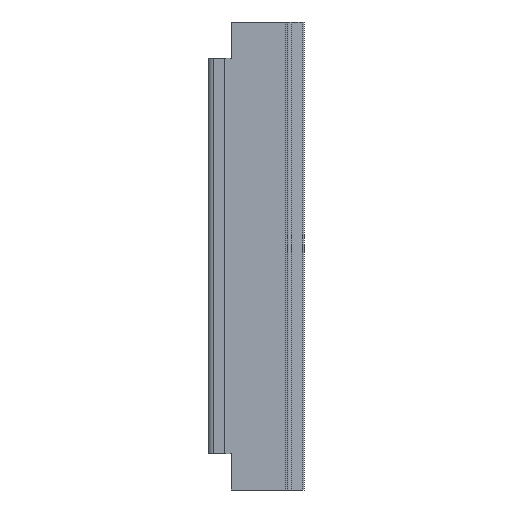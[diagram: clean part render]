
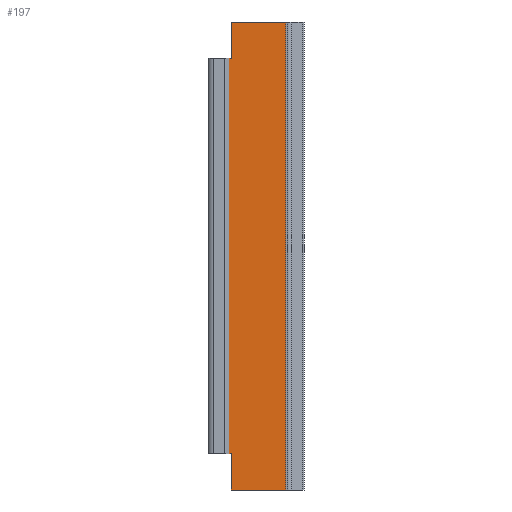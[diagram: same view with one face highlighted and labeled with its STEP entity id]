
A CAD part, left-side view. The second image highlights one B-rep face of the part: STEP entity #197.
In plain terms, the highlighted planar face has unit normal (-1, 0, 0).
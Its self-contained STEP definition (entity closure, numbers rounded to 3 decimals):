
#20 = VECTOR ( 'NONE', #1108, 1000. ) ;
#21 = LINE ( 'NONE', #1107, #20 ) ;
#33 = VECTOR ( 'NONE', #1095, 1000. ) ;
#46 = LINE ( 'NONE', #1092, #33 ) ;
#77 = LINE ( 'NONE', #1258, #190 ) ;
#93 = VECTOR ( 'NONE', #1237, 1000. ) ;
#94 = LINE ( 'NONE', #1236, #93 ) ;
#117 = LINE ( 'NONE', #1201, #125 ) ;
#121 = VECTOR ( 'NONE', #1203, 1000. ) ;
#122 = LINE ( 'NONE', #1202, #121 ) ;
#125 = VECTOR ( 'NONE', #1210, 1000. ) ;
#135 = VECTOR ( 'NONE', #1183, 1000. ) ;
#155 = LINE ( 'NONE', #1178, #135 ) ;
#173 = VECTOR ( 'NONE', #1141, 1000. ) ;
#174 = LINE ( 'NONE', #1140, #173 ) ;
#190 = VECTOR ( 'NONE', #1259, 1000. ) ;
#197 = ADVANCED_FACE ( 'NONE', ( #289 ), #750, .F. ) ;
#289 = FACE_OUTER_BOUND ( 'NONE', #323, .T. ) ;
#323 = EDGE_LOOP ( 'NONE', ( #577, #578, #579, #606, #612, #611, #595, #597 ) ) ;
#419 = CARTESIAN_POINT ( 'NONE',  ( -2.8, -17.7, 431.5 ) ) ;
#431 = CARTESIAN_POINT ( 'NONE',  ( -2.8, -17.7, 36.5 ) ) ;
#435 = CARTESIAN_POINT ( 'NONE',  ( -2.8, -14.928, 431.5 ) ) ;
#436 = CARTESIAN_POINT ( 'NONE',  ( -2.8, -14.928, 36.5 ) ) ;
#443 = CARTESIAN_POINT ( 'NONE',  ( -2.8, -72.063, 468. ) ) ;
#445 = CARTESIAN_POINT ( 'NONE',  ( -2.8, -17.7, 468. ) ) ;
#454 = CARTESIAN_POINT ( 'NONE',  ( -2.8, -17.7, 0. ) ) ;
#475 = CARTESIAN_POINT ( 'NONE',  ( -2.8, -72.063, 0. ) ) ;
#577 = ORIENTED_EDGE ( 'NONE', *, *, #940, .T. ) ;
#578 = ORIENTED_EDGE ( 'NONE', *, *, #954, .T. ) ;
#579 = ORIENTED_EDGE ( 'NONE', *, *, #1020, .T. ) ;
#595 = ORIENTED_EDGE ( 'NONE', *, *, #1055, .T. ) ;
#597 = ORIENTED_EDGE ( 'NONE', *, *, #1028, .F. ) ;
#606 = ORIENTED_EDGE ( 'NONE', *, *, #1044, .T. ) ;
#611 = ORIENTED_EDGE ( 'NONE', *, *, #986, .T. ) ;
#612 = ORIENTED_EDGE ( 'NONE', *, *, #1031, .T. ) ;
#750 = PLANE ( 'NONE',  #1011 ) ;
#751 = CARTESIAN_POINT ( 'NONE',  ( -2.8, -14.555, 468. ) ) ;
#760 = VERTEX_POINT ( 'NONE', #419 ) ;
#764 = VERTEX_POINT ( 'NONE', #431 ) ;
#768 = VERTEX_POINT ( 'NONE', #435 ) ;
#769 = VERTEX_POINT ( 'NONE', #436 ) ;
#776 = VERTEX_POINT ( 'NONE', #443 ) ;
#778 = VERTEX_POINT ( 'NONE', #445 ) ;
#787 = VERTEX_POINT ( 'NONE', #454 ) ;
#808 = VERTEX_POINT ( 'NONE', #475 ) ;
#820 = DIRECTION ( 'NONE',  ( 1., 0., 0. ) ) ;
#821 = DIRECTION ( 'NONE',  ( 0., 1., 0. ) ) ;
#940 = EDGE_CURVE ( 'NONE', #778, #760, #46, .T. ) ;
#954 = EDGE_CURVE ( 'NONE', #760, #768, #21, .T. ) ;
#986 = EDGE_CURVE ( 'NONE', #787, #808, #174, .T. ) ;
#1011 = AXIS2_PLACEMENT_3D ( 'NONE', #751, #820, #821 ) ;
#1020 = EDGE_CURVE ( 'NONE', #768, #769, #155, .T. ) ;
#1028 = EDGE_CURVE ( 'NONE', #778, #776, #122, .T. ) ;
#1031 = EDGE_CURVE ( 'NONE', #764, #787, #117, .T. ) ;
#1044 = EDGE_CURVE ( 'NONE', #769, #764, #94, .T. ) ;
#1055 = EDGE_CURVE ( 'NONE', #808, #776, #77, .T. ) ;
#1092 = CARTESIAN_POINT ( 'NONE',  ( -2.8, -17.7, 468. ) ) ;
#1095 = DIRECTION ( 'NONE',  ( 0., 0., -1. ) ) ;
#1107 = CARTESIAN_POINT ( 'NONE',  ( -2.8, -14.555, 431.5 ) ) ;
#1108 = DIRECTION ( 'NONE',  ( 0., 1., 0. ) ) ;
#1140 = CARTESIAN_POINT ( 'NONE',  ( -2.8, -14.555, 0. ) ) ;
#1141 = DIRECTION ( 'NONE',  ( 0., -1., 0. ) ) ;
#1178 = CARTESIAN_POINT ( 'NONE',  ( -2.8, -14.928, 468. ) ) ;
#1183 = DIRECTION ( 'NONE',  ( 0., 0., -1. ) ) ;
#1201 = CARTESIAN_POINT ( 'NONE',  ( -2.8, -17.7, 468. ) ) ;
#1202 = CARTESIAN_POINT ( 'NONE',  ( -2.8, -14.555, 468. ) ) ;
#1203 = DIRECTION ( 'NONE',  ( 0., -1., 0. ) ) ;
#1210 = DIRECTION ( 'NONE',  ( 0., 0., -1. ) ) ;
#1236 = CARTESIAN_POINT ( 'NONE',  ( -2.8, -14.555, 36.5 ) ) ;
#1237 = DIRECTION ( 'NONE',  ( 0., -1., 0. ) ) ;
#1258 = CARTESIAN_POINT ( 'NONE',  ( -2.8, -72.063, 468. ) ) ;
#1259 = DIRECTION ( 'NONE',  ( 0., 0., 1. ) ) ;
